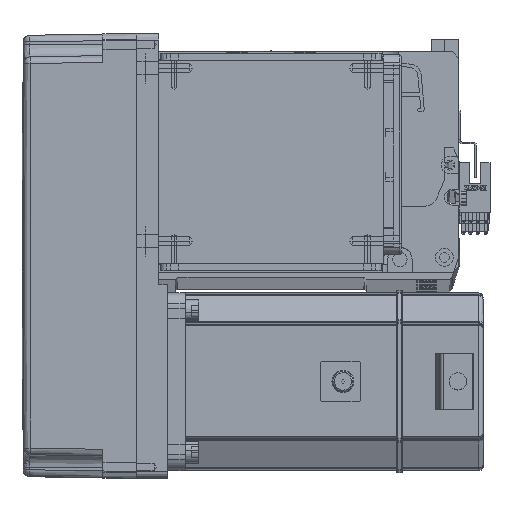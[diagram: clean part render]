
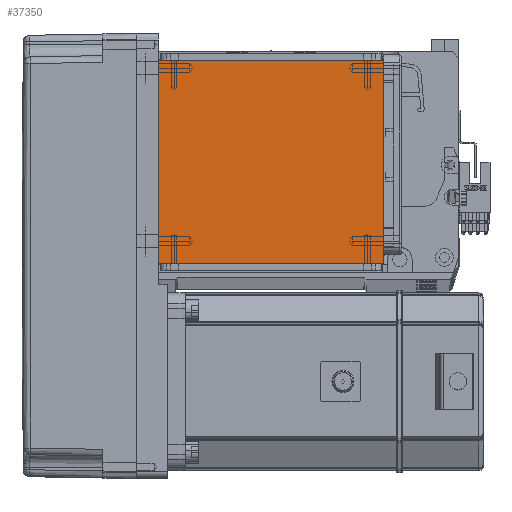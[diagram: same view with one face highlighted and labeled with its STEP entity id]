
A CAD part, top view. The second image highlights one B-rep face of the part: STEP entity #37350.
In plain terms, the highlighted planar face has unit normal (0, 0, 1).
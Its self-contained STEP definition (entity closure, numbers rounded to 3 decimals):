
#1037 = CARTESIAN_POINT ( 'NONE',  ( -70.004, 111.5, 115. ) ) ;
#1114 = LINE ( 'NONE', #1037, #4977 ) ;
#3143 = EDGE_CURVE ( 'NONE', #18305, #9493, #18199, .T. ) ;
#4977 = VECTOR ( 'NONE', #42805, 1000. ) ;
#6008 = LINE ( 'NONE', #19991, #56908 ) ;
#7425 = CARTESIAN_POINT ( 'NONE',  ( -50.5, 20., 115. ) ) ;
#8455 = CARTESIAN_POINT ( 'NONE',  ( 0., 0., 115. ) ) ;
#9220 = FACE_OUTER_BOUND ( 'NONE', #12667, .T. ) ;
#9493 = VERTEX_POINT ( 'NONE', #7425 ) ;
#10900 = CARTESIAN_POINT ( 'NONE',  ( 50.5, 122., 115. ) ) ;
#12667 = EDGE_LOOP ( 'NONE', ( #56090, #43356, #15878, #63880 ) ) ;
#14416 = DIRECTION ( 'NONE',  ( 0., -1., 0. ) ) ;
#14852 = VECTOR ( 'NONE', #46431, 1000. ) ;
#15748 = CARTESIAN_POINT ( 'NONE',  ( -70.004, 20., 115. ) ) ;
#15878 = ORIENTED_EDGE ( 'NONE', *, *, #3143, .F. ) ;
#17243 = CARTESIAN_POINT ( 'NONE',  ( 50.5, 20., 115. ) ) ;
#18000 = DIRECTION ( 'NONE',  ( 0., 0., 1. ) ) ;
#18199 = LINE ( 'NONE', #15748, #41271 ) ;
#18305 = VERTEX_POINT ( 'NONE', #17243 ) ;
#19991 = CARTESIAN_POINT ( 'NONE',  ( -50.5, 122., 115. ) ) ;
#23242 = EDGE_CURVE ( 'NONE', #18305, #44419, #59383, .T. ) ;
#29078 = PLANE ( 'NONE',  #38595 ) ;
#37350 = ADVANCED_FACE ( 'NONE', ( #9220 ), #29078, .T. ) ;
#37555 = EDGE_CURVE ( 'NONE', #60793, #9493, #6008, .T. ) ;
#38595 = AXIS2_PLACEMENT_3D ( 'NONE', #8455, #18000, #54018 ) ;
#41271 = VECTOR ( 'NONE', #51090, 1000. ) ;
#42805 = DIRECTION ( 'NONE',  ( 1., 0., 0. ) ) ;
#43356 = ORIENTED_EDGE ( 'NONE', *, *, #37555, .T. ) ;
#43433 = CARTESIAN_POINT ( 'NONE',  ( 50.5, 111.5, 115. ) ) ;
#44419 = VERTEX_POINT ( 'NONE', #43433 ) ;
#46431 = DIRECTION ( 'NONE',  ( 0., 1., 0. ) ) ;
#51090 = DIRECTION ( 'NONE',  ( -1., 0., 0. ) ) ;
#54018 = DIRECTION ( 'NONE',  ( 1., 0., 0. ) ) ;
#56090 = ORIENTED_EDGE ( 'NONE', *, *, #65909, .F. ) ;
#56908 = VECTOR ( 'NONE', #14416, 1000. ) ;
#59383 = LINE ( 'NONE', #10900, #14852 ) ;
#60793 = VERTEX_POINT ( 'NONE', #64843 ) ;
#63880 = ORIENTED_EDGE ( 'NONE', *, *, #23242, .T. ) ;
#64843 = CARTESIAN_POINT ( 'NONE',  ( -50.5, 111.5, 115. ) ) ;
#65909 = EDGE_CURVE ( 'NONE', #60793, #44419, #1114, .T. ) ;
